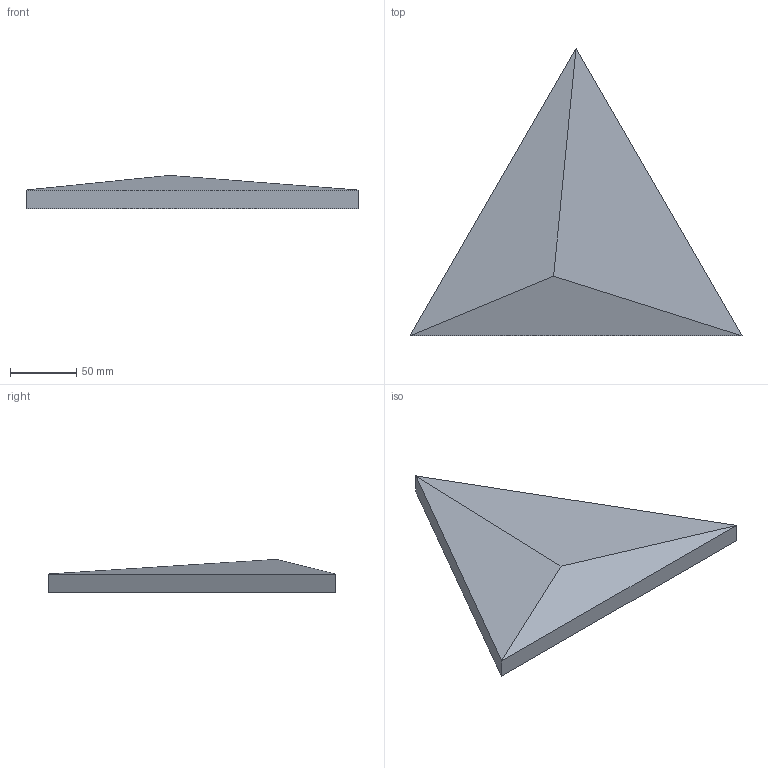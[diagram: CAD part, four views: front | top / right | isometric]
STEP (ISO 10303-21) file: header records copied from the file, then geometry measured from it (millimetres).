
FILE_DESCRIPTION(/* description */ (''),/* implementation_level */ '2;1');
FILE_NAME(/* name */ 'E01_PY~1',/* time_stamp */ '2022-11-14T20:32:52+01:00',/* author */ (''),/* organization */ (''),/* preprocessor_version */ 'ST-DEVELOPER v15',/* originating_system */ '',/* authorisation */ '');
FILE_SCHEMA (('AUTOMOTIVE_DESIGN'));
Length unit declared in the file: millimetre
Products named in the file (1): Document
Bounding box: 250 x 216.51 x 25 mm (x, y, z)
Volume: 478118.2 mm3; surface area: 64973.4 mm2
Topology: 1 solids, 1 shells, 7 faces, 12 edges, 7 vertices
Faces by surface type: plane 7
Entity records: 162 total; most frequent: CARTESIAN_POINT 40, ORIENTED_EDGE 24, EDGE_CURVE 12, B_SPLINE_CURVE_WITH_KNOTS 12, DIRECTION 11, AXIS2_PLACEMENT_3D 9, ADVANCED_FACE 7, FACE_OUTER_BOUND 7
